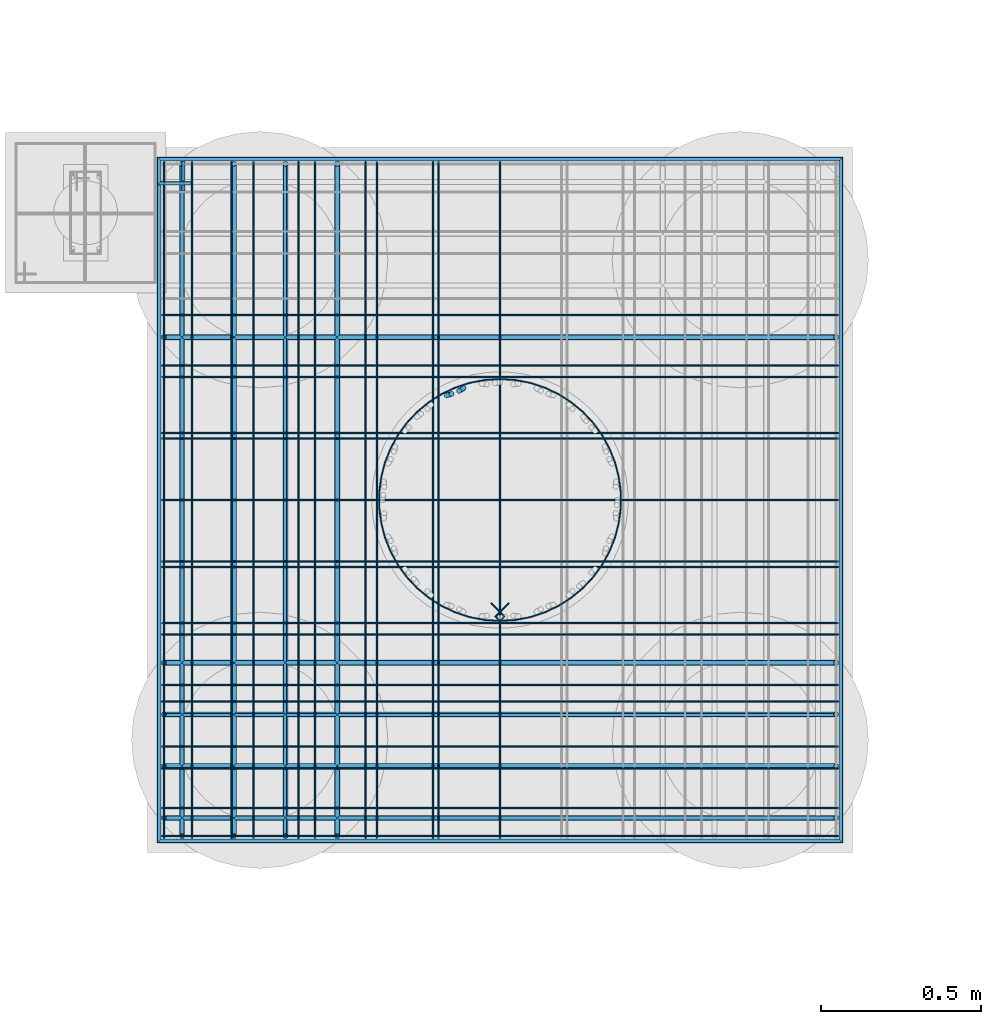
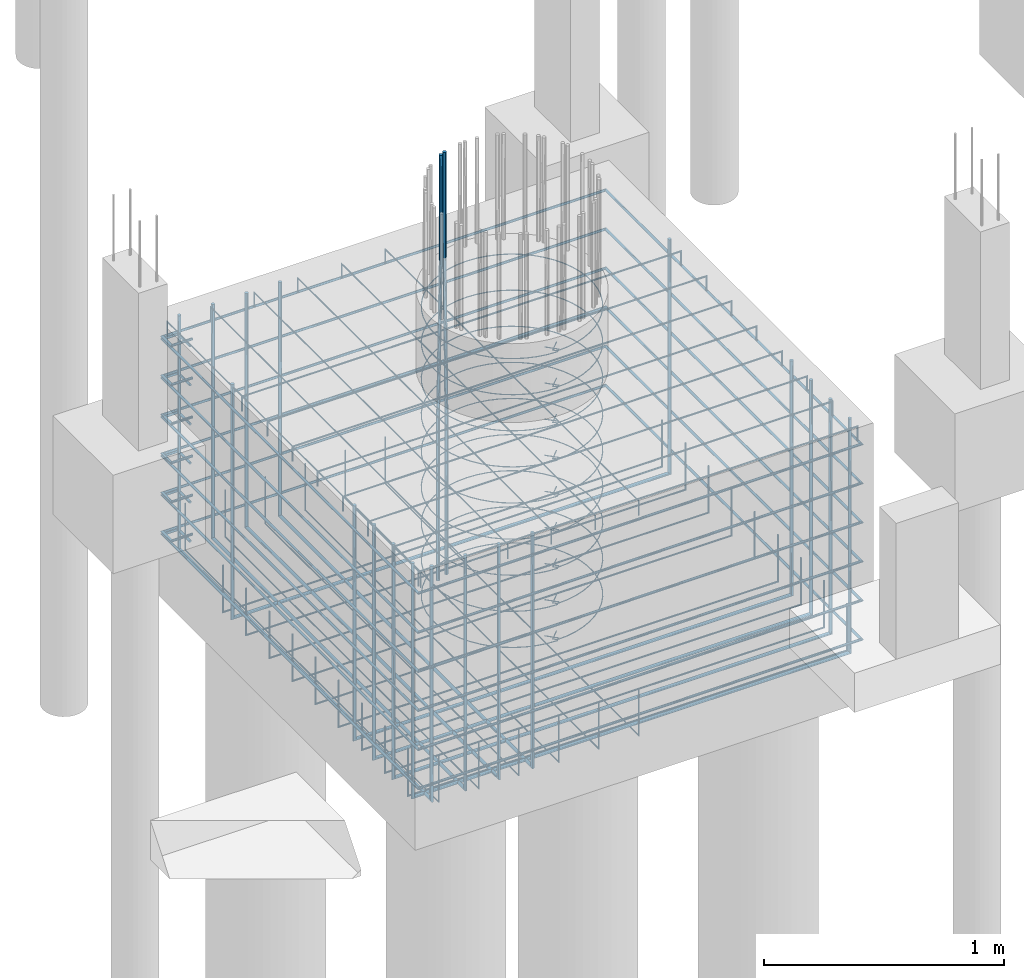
# One storey, part 12 of 119: 55 reinforcing bars.
"""IFC4 building model written with IfcOpenShell, lengths in centimetres."""

from ifc_helpers import new_model, entity, si_unit, derived_unit, frame, origin_with_axes, place, context, project, spatial, source, transform, mapped, element, save


model = new_model("IFC4")

# Units and contexts
model_context = context("Model", 3, precision=1e-05, world=origin_with_axes(), identifier="Body")
ifc_project = project(units=[si_unit("LENGTHUNIT", "METRE", prefix="CENTI"), si_unit("VOLUMEUNIT", "CUBIC_METRE"), si_unit("AREAUNIT", "SQUARE_METRE"), si_unit("POWERUNIT", "WATT"), si_unit("LUMINOUSFLUXUNIT", "LUMEN"), si_unit("ELECTRICCURRENTUNIT", "AMPERE"), si_unit("PRESSUREUNIT", "PASCAL", prefix="KILO"), si_unit("MASSUNIT", "GRAM", prefix="KILO"), si_unit("PLANEANGLEUNIT", "RADIAN"), derived_unit("VOLUMETRICFLOWRATEUNIT", [(si_unit("LENGTHUNIT", "METRE"), 3), (si_unit("TIMEUNIT", "SECOND"), -1)])], contexts=[model_context])

# Site, building, storey
site_placement = place(None, frame((-4000.0, 0.0, 0.0), z_axis=(0.0, 0.0, 1.0), x_axis=(1.0, 0.0, 0.0)))
site = spatial("IfcSite", under=ifc_project, at=site_placement, Name="PADRÃO")
building_placement = place(site_placement, frame((0.0, 0.0, -14.0)))
building = spatial("IfcBuilding", under=site, at=building_placement, Name="CRECHE PRÉ-ESCOLA TIPO 2")
storey_placement = place(building_placement, origin_with_axes())
storey = spatial("IfcBuildingStorey", under=building, at=storey_placement, Name="FUNDAÇÃO", CompositionType="ELEMENT", Elevation=-14.0)

# Reinforcing bars
shared_shape_1 = source(origin_with_axes(), model_context, "Body", "AdvancedSweptSolid", [
    entity("IfcSweptDiskSolid", entity("IfcCompositeCurve", [entity("IfcCompositeCurveSegment", "CONTINUOUS", True, entity("IfcPolyline", [entity("IfcCartesianPoint", [69.8431457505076, -40.5784271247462, 0.0]), entity("IfcCartesianPoint", [74.0857864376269, -36.3357864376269, 0.0])])), entity("IfcCompositeCurveSegment", "CONTINUOUS", True, entity("IfcPolyline", [entity("IfcCartesianPoint", [74.0857864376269, -36.3357864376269, 0.0]), entity("IfcCartesianPoint", [75.5, -37.75, 0.0])])), entity("IfcCompositeCurveSegment", "CONTINUOUS", True, entity("IfcPolyline", [entity("IfcCartesianPoint", [75.5, -37.75, 0.0]), entity("IfcCartesianPoint", [75.2023299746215, -42.4813295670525, 0.01])])), entity("IfcCompositeCurveSegment", "CONTINUOUS", True, entity("IfcPolyline", [entity("IfcCartesianPoint", [75.2023299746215, -42.4813295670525, 0.01]), entity("IfcCartesianPoint", [74.3140143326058, -47.1380432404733, 0.02])])), entity("IfcCompositeCurveSegment", "CONTINUOUS", True, entity("IfcPolyline", [entity("IfcCartesianPoint", [74.3140143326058, -47.1380432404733, 0.02]), entity("IfcCartesianPoint", [72.8490623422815, -51.6467018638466, 0.03])])), entity("IfcCompositeCurveSegment", "CONTINUOUS", True, entity("IfcPolyline", [entity("IfcCartesianPoint", [72.8490623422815, -51.6467018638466, 0.03]), entity("IfcCartesianPoint", [70.8305771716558, -55.9362011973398, 0.04])])), entity("IfcCompositeCurveSegment", "CONTINUOUS", True, entity("IfcPolyline", [entity("IfcCartesianPoint", [70.8305771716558, -55.9362011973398, 0.04]), entity("IfcCartesianPoint", [68.2903915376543, -59.9388932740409, 0.05])])), entity("IfcCompositeCurveSegment", "CONTINUOUS", True, entity("IfcPolyline", [entity("IfcCartesianPoint", [68.2903915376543, -59.9388932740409, 0.05]), entity("IfcCartesianPoint", [65.2685656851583, -63.591653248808, 0.06])])), entity("IfcCompositeCurveSegment", "CONTINUOUS", True, entity("IfcPolyline", [entity("IfcCartesianPoint", [65.2685656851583, -63.591653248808, 0.06]), entity("IfcCartesianPoint", [61.812755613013, -66.836874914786, 0.07])])), entity("IfcCompositeCurveSegment", "CONTINUOUS", True, entity("IfcPolyline", [entity("IfcCartesianPoint", [61.812755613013, -66.836874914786, 0.07]), entity("IfcCartesianPoint", [57.9774615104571, -69.6233791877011, 0.08])])), entity("IfcCompositeCurveSegment", "CONTINUOUS", True, entity("IfcPolyline", [entity("IfcCartesianPoint", [57.9774615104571, -69.6233791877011, 0.08]), entity("IfcCartesianPoint", [53.8231682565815, -71.9072212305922, 0.09])])), entity("IfcCompositeCurveSegment", "CONTINUOUS", True, entity("IfcPolyline", [entity("IfcCartesianPoint", [53.8231682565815, -71.9072212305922, 0.09]), entity("IfcCartesianPoint", [49.4153915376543, -73.652383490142, 0.1])])), entity("IfcCompositeCurveSegment", "CONTINUOUS", True, entity("IfcPolyline", [entity("IfcCartesianPoint", [49.4153915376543, -73.652383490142, 0.1]), entity("IfcCartesianPoint", [44.8236446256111, -74.831343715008, 0.11])])), entity("IfcCompositeCurveSegment", "CONTINUOUS", True, entity("IfcPolyline", [entity("IfcCartesianPoint", [44.8236446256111, -74.831343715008, 0.11]), entity("IfcCartesianPoint", [40.1203421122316, -75.4255089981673, 0.12])])), entity("IfcCompositeCurveSegment", "CONTINUOUS", True, entity("IfcPolyline", [entity("IfcCartesianPoint", [40.1203421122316, -75.4255089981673, 0.12]), entity("IfcCartesianPoint", [35.3796578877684, -75.4255089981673, 0.13])])), entity("IfcCompositeCurveSegment", "CONTINUOUS", True, entity("IfcPolyline", [entity("IfcCartesianPoint", [35.3796578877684, -75.4255089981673, 0.13]), entity("IfcCartesianPoint", [30.6763553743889, -74.831343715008, 0.14])])), entity("IfcCompositeCurveSegment", "CONTINUOUS", True, entity("IfcPolyline", [entity("IfcCartesianPoint", [30.6763553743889, -74.831343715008, 0.14]), entity("IfcCartesianPoint", [26.0846084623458, -73.6523834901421, 0.15])])), entity("IfcCompositeCurveSegment", "CONTINUOUS", True, entity("IfcPolyline", [entity("IfcCartesianPoint", [26.0846084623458, -73.6523834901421, 0.15]), entity("IfcCartesianPoint", [21.6768317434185, -71.9072212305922, 0.16])])), entity("IfcCompositeCurveSegment", "CONTINUOUS", True, entity("IfcPolyline", [entity("IfcCartesianPoint", [21.6768317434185, -71.9072212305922, 0.16]), entity("IfcCartesianPoint", [17.5225384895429, -69.6233791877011, 0.17])])), entity("IfcCompositeCurveSegment", "CONTINUOUS", True, entity("IfcPolyline", [entity("IfcCartesianPoint", [17.5225384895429, -69.6233791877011, 0.17]), entity("IfcCartesianPoint", [13.687244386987, -66.8368749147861, 0.18])])), entity("IfcCompositeCurveSegment", "CONTINUOUS", True, entity("IfcPolyline", [entity("IfcCartesianPoint", [13.687244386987, -66.8368749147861, 0.18]), entity("IfcCartesianPoint", [10.2314343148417, -63.591653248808, 0.19])])), entity("IfcCompositeCurveSegment", "CONTINUOUS", True, entity("IfcPolyline", [entity("IfcCartesianPoint", [10.2314343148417, -63.591653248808, 0.19]), entity("IfcCartesianPoint", [7.20960846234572, -59.9388932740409, 0.2])])), entity("IfcCompositeCurveSegment", "CONTINUOUS", True, entity("IfcPolyline", [entity("IfcCartesianPoint", [7.20960846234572, -59.9388932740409, 0.2]), entity("IfcCartesianPoint", [4.66942282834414, -55.9362011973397, 0.21])])), entity("IfcCompositeCurveSegment", "CONTINUOUS", True, entity("IfcPolyline", [entity("IfcCartesianPoint", [4.66942282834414, -55.9362011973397, 0.21]), entity("IfcCartesianPoint", [2.6509376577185, -51.6467018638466, 0.22])])), entity("IfcCompositeCurveSegment", "CONTINUOUS", True, entity("IfcPolyline", [entity("IfcCartesianPoint", [2.6509376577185, -51.6467018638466, 0.22]), entity("IfcCartesianPoint", [1.18598566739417, -47.1380432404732, 0.23])])), entity("IfcCompositeCurveSegment", "CONTINUOUS", True, entity("IfcPolyline", [entity("IfcCartesianPoint", [1.18598566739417, -47.1380432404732, 0.23]), entity("IfcCartesianPoint", [0.297670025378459, -42.4813295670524, 0.24])])), entity("IfcCompositeCurveSegment", "CONTINUOUS", True, entity("IfcPolyline", [entity("IfcCartesianPoint", [0.297670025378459, -42.4813295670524, 0.24]), entity("IfcCartesianPoint", [0.0, -37.75, 0.25])])), entity("IfcCompositeCurveSegment", "CONTINUOUS", True, entity("IfcPolyline", [entity("IfcCartesianPoint", [0.0, -37.75, 0.25]), entity("IfcCartesianPoint", [0.297670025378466, -33.0186704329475, 0.26])])), entity("IfcCompositeCurveSegment", "CONTINUOUS", True, entity("IfcPolyline", [entity("IfcCartesianPoint", [0.297670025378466, -33.0186704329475, 0.26]), entity("IfcCartesianPoint", [1.18598566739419, -28.3619567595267, 0.27])])), entity("IfcCompositeCurveSegment", "CONTINUOUS", True, entity("IfcPolyline", [entity("IfcCartesianPoint", [1.18598566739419, -28.3619567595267, 0.27]), entity("IfcCartesianPoint", [2.65093765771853, -23.8532981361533, 0.28])])), entity("IfcCompositeCurveSegment", "CONTINUOUS", True, entity("IfcPolyline", [entity("IfcCartesianPoint", [2.65093765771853, -23.8532981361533, 0.28]), entity("IfcCartesianPoint", [4.66942282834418, -19.5637988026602, 0.29])])), entity("IfcCompositeCurveSegment", "CONTINUOUS", True, entity("IfcPolyline", [entity("IfcCartesianPoint", [4.66942282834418, -19.5637988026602, 0.29]), entity("IfcCartesianPoint", [7.20960846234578, -15.5611067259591, 0.3])])), entity("IfcCompositeCurveSegment", "CONTINUOUS", True, entity("IfcPolyline", [entity("IfcCartesianPoint", [7.20960846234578, -15.5611067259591, 0.3]), entity("IfcCartesianPoint", [10.2314343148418, -11.9083467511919, 0.31])])), entity("IfcCompositeCurveSegment", "CONTINUOUS", True, entity("IfcPolyline", [entity("IfcCartesianPoint", [10.2314343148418, -11.9083467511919, 0.31]), entity("IfcCartesianPoint", [13.687244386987, -8.66312508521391, 0.32])])), entity("IfcCompositeCurveSegment", "CONTINUOUS", True, entity("IfcPolyline", [entity("IfcCartesianPoint", [13.687244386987, -8.66312508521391, 0.32]), entity("IfcCartesianPoint", [17.5225384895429, -5.87662081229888, 0.33])])), entity("IfcCompositeCurveSegment", "CONTINUOUS", True, entity("IfcPolyline", [entity("IfcCartesianPoint", [17.5225384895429, -5.87662081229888, 0.33]), entity("IfcCartesianPoint", [21.6768317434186, -3.59277876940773, 0.34])])), entity("IfcCompositeCurveSegment", "CONTINUOUS", True, entity("IfcPolyline", [entity("IfcCartesianPoint", [21.6768317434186, -3.59277876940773, 0.34]), entity("IfcCartesianPoint", [26.0846084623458, -1.84761650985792, 0.35])])), entity("IfcCompositeCurveSegment", "CONTINUOUS", True, entity("IfcPolyline", [entity("IfcCartesianPoint", [26.0846084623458, -1.84761650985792, 0.35]), entity("IfcCartesianPoint", [30.676355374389, -0.668656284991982, 0.36])])), entity("IfcCompositeCurveSegment", "CONTINUOUS", True, entity("IfcPolyline", [entity("IfcCartesianPoint", [30.676355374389, -0.668656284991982, 0.36]), entity("IfcCartesianPoint", [35.3796578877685, -0.07449100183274, 0.37])])), entity("IfcCompositeCurveSegment", "CONTINUOUS", True, entity("IfcPolyline", [entity("IfcCartesianPoint", [35.3796578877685, -0.07449100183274, 0.37]), entity("IfcCartesianPoint", [40.1203421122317, -0.074491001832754, 0.38])])), entity("IfcCompositeCurveSegment", "CONTINUOUS", True, entity("IfcPolyline", [entity("IfcCartesianPoint", [40.1203421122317, -0.074491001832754, 0.38]), entity("IfcCartesianPoint", [44.8236446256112, -0.668656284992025, 0.39])])), entity("IfcCompositeCurveSegment", "CONTINUOUS", True, entity("IfcPolyline", [entity("IfcCartesianPoint", [44.8236446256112, -0.668656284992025, 0.39]), entity("IfcCartesianPoint", [49.4153915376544, -1.84761650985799, 0.4])])), entity("IfcCompositeCurveSegment", "CONTINUOUS", True, entity("IfcPolyline", [entity("IfcCartesianPoint", [49.4153915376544, -1.84761650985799, 0.4]), entity("IfcCartesianPoint", [53.8231682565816, -3.59277876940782, 0.41])])), entity("IfcCompositeCurveSegment", "CONTINUOUS", True, entity("IfcPolyline", [entity("IfcCartesianPoint", [53.8231682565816, -3.59277876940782, 0.41]), entity("IfcCartesianPoint", [57.9774615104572, -5.87662081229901, 0.42])])), entity("IfcCompositeCurveSegment", "CONTINUOUS", True, entity("IfcPolyline", [entity("IfcCartesianPoint", [57.9774615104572, -5.87662081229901, 0.42]), entity("IfcCartesianPoint", [61.8127556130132, -8.66312508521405, 0.43])])), entity("IfcCompositeCurveSegment", "CONTINUOUS", True, entity("IfcPolyline", [entity("IfcCartesianPoint", [61.8127556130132, -8.66312508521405, 0.43]), entity("IfcCartesianPoint", [65.2685656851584, -11.9083467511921, 0.44])])), entity("IfcCompositeCurveSegment", "CONTINUOUS", True, entity("IfcPolyline", [entity("IfcCartesianPoint", [65.2685656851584, -11.9083467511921, 0.44]), entity("IfcCartesianPoint", [68.2903915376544, -15.5611067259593, 0.45])])), entity("IfcCompositeCurveSegment", "CONTINUOUS", True, entity("IfcPolyline", [entity("IfcCartesianPoint", [68.2903915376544, -15.5611067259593, 0.45]), entity("IfcCartesianPoint", [70.8305771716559, -19.5637988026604, 0.46])])), entity("IfcCompositeCurveSegment", "CONTINUOUS", True, entity("IfcPolyline", [entity("IfcCartesianPoint", [70.8305771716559, -19.5637988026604, 0.46]), entity("IfcCartesianPoint", [72.8490623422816, -23.8532981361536, 0.47])])), entity("IfcCompositeCurveSegment", "CONTINUOUS", True, entity("IfcPolyline", [entity("IfcCartesianPoint", [72.8490623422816, -23.8532981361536, 0.47]), entity("IfcCartesianPoint", [74.3140143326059, -28.3619567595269, 0.48])])), entity("IfcCompositeCurveSegment", "CONTINUOUS", True, entity("IfcPolyline", [entity("IfcCartesianPoint", [74.3140143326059, -28.3619567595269, 0.48]), entity("IfcCartesianPoint", [75.2023299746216, -33.0186704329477, 0.49])])), entity("IfcCompositeCurveSegment", "CONTINUOUS", True, entity("IfcPolyline", [entity("IfcCartesianPoint", [75.2023299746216, -33.0186704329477, 0.49]), entity("IfcCartesianPoint", [75.5, -37.75, 0.5])])), entity("IfcCompositeCurveSegment", "CONTINUOUS", True, entity("IfcPolyline", [entity("IfcCartesianPoint", [75.5, -37.75, 0.5]), entity("IfcCartesianPoint", [74.0857864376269, -39.1642135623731, 0.5])])), entity("IfcCompositeCurveSegment", "CONTINUOUS", True, entity("IfcPolyline", [entity("IfcCartesianPoint", [74.0857864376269, -39.1642135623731, 0.5]), entity("IfcCartesianPoint", [69.8431457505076, -34.9215728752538, 0.5])]))], False), 0.25),
])
for number, where, z_axis, x_axis, name in (
    (1, (2423.03, 267.14, -9.16666666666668), (0.0, 0.0, 1.0), (0.0, -1.0, 0.0), "P151 - Estribo"),
    (2, (2423.03, 267.14, -27.5), (0.0, 0.0, 1.0), (0.0, -1.0, 0.0), "P151 - Estribo"),
    (3, (2423.03, 267.14, -45.8333333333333), (0.0, 0.0, 1.0), (0.0, -1.0, 0.0), "P151 - Estribo"),
    (4, (2423.03, 267.14, -64.1666666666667), (0.0, 0.0, 1.0), (0.0, -1.0, 0.0), "P151 - Estribo"),
    (5, (2423.03, 267.14, -82.5), (0.0, 0.0, 1.0), (0.0, -1.0, 0.0), "P151 - Estribo"),
    (6, (2423.03, 267.14, -100.833333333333), (0.0, 0.0, 1.0), (0.0, -1.0, 0.0), "P151 - Estribo"),
    (7, (2423.03, 267.14, -119.166666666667), (0.0, 0.0, 1.0), (0.0, -1.0, 0.0), "P151 - Estribo"),
    (8, (2423.03, 267.14, -137.5), (0.0, 0.0, 1.0), (0.0, -1.0, 0.0), "P151 - Estribo"),
    (9, (2423.03, 267.14, -155.833333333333), (0.0, 0.0, 1.0), (0.0, -1.0, 0.0), "P151 - Estribo"),
):
    element("IfcReinforcingBar", number, at=place(storey_placement, frame(where, z_axis=z_axis, x_axis=x_axis)), inside=storey, Name=name, BarLength=0.0, CrossSectionArea=1.9634954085e-05, NominalDiameter=0.5, PredefinedType="MAIN", context=model_context, shape_type="MappedRepresentation", body=[
        mapped(shared_shape_1, transform((0.0, 0.0, 0.0), scale=1.0)),
    ])
shared_shape_2 = source(origin_with_axes(), model_context, "Body", "AdvancedSweptSolid", [
    entity("IfcSweptDiskSolid", entity("IfcCompositeCurve", [entity("IfcCompositeCurveSegment", "CONTINUOUS", True, entity("IfcPolyline", [entity("IfcCartesianPoint", [2286.405, 325.765, 0.0]), entity("IfcCartesianPoint", [2286.405, 335.765, 0.0])])), entity("IfcCompositeCurveSegment", "CONTINUOUS", True, entity("IfcPolyline", [entity("IfcCartesianPoint", [2286.405, 335.765, 0.0]), entity("IfcCartesianPoint", [2278.905, 335.765, 0.0])])), entity("IfcCompositeCurveSegment", "CONTINUOUS", True, entity("IfcPolyline", [entity("IfcCartesianPoint", [2278.905, 335.765, 0.0]), entity("IfcCartesianPoint", [2278.905, 123.015, 0.0])])), entity("IfcCompositeCurveSegment", "CONTINUOUS", True, entity("IfcPolyline", [entity("IfcCartesianPoint", [2278.905, 123.015, 0.0]), entity("IfcCartesianPoint", [2491.655, 123.015, 1.25])])), entity("IfcCompositeCurveSegment", "CONTINUOUS", True, entity("IfcPolyline", [entity("IfcCartesianPoint", [2491.655, 123.015, 1.25]), entity("IfcCartesianPoint", [2491.655, 335.765, 1.25])])), entity("IfcCompositeCurveSegment", "CONTINUOUS", True, entity("IfcPolyline", [entity("IfcCartesianPoint", [2491.655, 335.765, 1.25]), entity("IfcCartesianPoint", [2278.905, 335.765, 1.25])])), entity("IfcCompositeCurveSegment", "CONTINUOUS", True, entity("IfcPolyline", [entity("IfcCartesianPoint", [2278.905, 335.765, 1.25]), entity("IfcCartesianPoint", [2278.905, 328.265, 1.25])])), entity("IfcCompositeCurveSegment", "CONTINUOUS", True, entity("IfcPolyline", [entity("IfcCartesianPoint", [2278.905, 328.265, 1.25]), entity("IfcCartesianPoint", [2288.905, 328.265, 1.25])]))], False), 0.625),
])
for number, where, z_axis, x_axis, name in (
    (10, (0.0, 0.0, -52.9166666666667), (0.0, 0.0, 1.0), (1.0, 0.0, 0.0), "P151 - Blocos (estribos)"),
    (11, (0.0, 0.0, -132.25), (0.0, 0.0, 1.0), (1.0, 0.0, 0.0), "P151 - Blocos (estribos)"),
    (12, (0.0, 0.0, -112.416666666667), (0.0, 0.0, 1.0), (1.0, 0.0, 0.0), "P151 - Blocos (estribos)"),
    (13, (0.0, 0.0, -92.5833333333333), (0.0, 0.0, 1.0), (1.0, 0.0, 0.0), "P151 - Blocos (estribos)"),
    (14, (0.0, 0.0, -152.083333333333), (0.0, 0.0, 1.0), (1.0, 0.0, 0.0), "P151 - Blocos (estribos)"),
    (15, (0.0, 0.0, -72.75), (0.0, 0.0, 1.0), (1.0, 0.0, 0.0), "P151 - Blocos (estribos)"),
):
    element("IfcReinforcingBar", number, at=place(storey_placement, frame(where, z_axis=z_axis, x_axis=x_axis)), inside=storey, Name=name, BarLength=0.0, CrossSectionArea=0.000122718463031, NominalDiameter=1.25, PredefinedType="MAIN", context=model_context, shape_type="MappedRepresentation", body=[
        mapped(shared_shape_2, transform((0.0, 0.0, 0.0), scale=1.0)),
    ])
for number, where, z_axis, x_axis, name in (
    (16, (2385.28, 229.39, -139.213841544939), (0.0, 0.0, 1.0), (1.0, 0.0, 0.0), "P151 - Blocos (distribuição)"),
    (17, (2366.05272727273, 229.39, -139.213841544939), (0.0, 0.0, 1.0), (1.0, 0.0, 0.0), "P151 - Blocos (distribuição)"),
    (18, (2346.82545454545, 229.39, -139.213841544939), (0.0, 0.0, 1.0), (1.0, 0.0, 0.0), "P151 - Blocos (distribuição)"),
    (19, (2327.59818181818, 229.39, -139.213841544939), (0.0, 0.0, 1.0), (1.0, 0.0, 0.0), "P151 - Blocos (distribuição)"),
    (20, (2308.37090909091, 229.39, -139.213841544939), (0.0, 0.0, 1.0), (1.0, 0.0, 0.0), "P151 - Blocos (distribuição)"),
    (21, (2289.14363636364, 229.39, -139.213841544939), (0.0, 0.0, 1.0), (1.0, 0.0, 0.0), "P151 - Blocos (distribuição)"),
):
    element("IfcReinforcingBar", number, at=place(storey_placement, frame(where, z_axis=z_axis, x_axis=x_axis)), inside=storey, Name=name, BarLength=0.0, CrossSectionArea=3.1172453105e-05, NominalDiameter=0.63, PredefinedType="MAIN", context=model_context, shape_type="AdvancedSweptSolid", body=[
        entity("IfcSweptDiskSolid", entity("IfcCompositeCurve", [entity("IfcCompositeCurveSegment", "CONTINUOUS", True, entity("IfcPolyline", [entity("IfcCartesianPoint", [0.0, 105.435, 0.0]), entity("IfcCartesianPoint", [0.0, 105.435, -23.7311584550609])])), entity("IfcCompositeCurveSegment", "CONTINUOUS", True, entity("IfcPolyline", [entity("IfcCartesianPoint", [0.0, 105.435, -23.7311584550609]), entity("IfcCartesianPoint", [0.0, -105.435, -23.7311584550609])])), entity("IfcCompositeCurveSegment", "CONTINUOUS", True, entity("IfcPolyline", [entity("IfcCartesianPoint", [0.0, -105.435, -23.7311584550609]), entity("IfcCartesianPoint", [0.0, -105.435, 0.0])]))], False), 0.315),
    ])
for number, where, z_axis, x_axis, name in (
    (22, (2385.28, 133.253636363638, -138.583841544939), (0.0, 0.0, 1.0), (1.0, 0.0, 0.0), "P151 - Blocos (distribuição)"),
    (23, (2385.28, 152.480909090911, -138.583841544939), (0.0, 0.0, 1.0), (1.0, 0.0, 0.0), "P151 - Blocos (distribuição)"),
    (24, (2385.28, 171.708181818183, -138.583841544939), (0.0, 0.0, 1.0), (1.0, 0.0, 0.0), "P151 - Blocos (distribuição)"),
    (25, (2385.28, 190.935454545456, -138.583841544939), (0.0, 0.0, 1.0), (1.0, 0.0, 0.0), "P151 - Blocos (distribuição)"),
    (26, (2385.28, 210.162727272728, -138.583841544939), (0.0, 0.0, 1.0), (1.0, 0.0, 0.0), "P151 - Blocos (distribuição)"),
    (27, (2385.28, 229.39, -138.583841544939), (0.0, 0.0, 1.0), (1.0, 0.0, 0.0), "P151 - Blocos (distribuição)"),
    (28, (2385.28, 248.617272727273, -138.583841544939), (0.0, 0.0, 1.0), (1.0, 0.0, 0.0), "P151 - Blocos (distribuição)"),
    (29, (2385.28, 267.844545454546, -138.583841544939), (0.0, 0.0, 1.0), (1.0, 0.0, 0.0), "P151 - Blocos (distribuição)"),
    (30, (2385.28, 287.071818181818, -138.583841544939), (0.0, 0.0, 1.0), (1.0, 0.0, 0.0), "P151 - Blocos (distribuição)"),
):
    element("IfcReinforcingBar", number, at=place(storey_placement, frame(where, z_axis=z_axis, x_axis=x_axis)), inside=storey, Name=name, BarLength=0.0, CrossSectionArea=3.1172453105e-05, NominalDiameter=0.63, PredefinedType="MAIN", context=model_context, shape_type="AdvancedSweptSolid", body=[
        entity("IfcSweptDiskSolid", entity("IfcCompositeCurve", [entity("IfcCompositeCurveSegment", "CONTINUOUS", True, entity("IfcPolyline", [entity("IfcCartesianPoint", [105.435, 0.0, 0.0]), entity("IfcCartesianPoint", [105.435, 0.0, -23.7311584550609])])), entity("IfcCompositeCurveSegment", "CONTINUOUS", True, entity("IfcPolyline", [entity("IfcCartesianPoint", [105.435, 0.0, -23.7311584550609]), entity("IfcCartesianPoint", [-105.435, 0.0, -23.7311584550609])])), entity("IfcCompositeCurveSegment", "CONTINUOUS", True, entity("IfcPolyline", [entity("IfcCartesianPoint", [-105.435, 0.0, -23.7311584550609]), entity("IfcCartesianPoint", [-105.435, 0.0, 0.0])]))], False), 0.315),
    ])
reinforcing_bar_1_placement = place(storey_placement, frame((2385.28, 280.19, -42.2), z_axis=(0.0, 0.0, 1.0), x_axis=(1.0, 0.0, 0.0)))
element("IfcReinforcingBar", 31, at=reinforcing_bar_1_placement, inside=storey, Name="P151 - Blocos (principal)", BarLength=0.0, CrossSectionArea=0.00020106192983, NominalDiameter=1.6, PredefinedType="MAIN", context=model_context, shape_type="AdvancedSweptSolid", body=[
    entity("IfcSweptDiskSolid", entity("IfcCompositeCurve", [entity("IfcCompositeCurveSegment", "CONTINUOUS", True, entity("IfcPolyline", [entity("IfcCartesianPoint", [-104.95, 0.0, 0.0]), entity("IfcCartesianPoint", [-104.95, 0.0, -119.0])])), entity("IfcCompositeCurveSegment", "CONTINUOUS", True, entity("IfcPolyline", [entity("IfcCartesianPoint", [-104.95, 0.0, -119.0]), entity("IfcCartesianPoint", [104.95, 0.0, -119.0])])), entity("IfcCompositeCurveSegment", "CONTINUOUS", True, entity("IfcPolyline", [entity("IfcCartesianPoint", [104.95, 0.0, -119.0]), entity("IfcCartesianPoint", [104.95, 0.0, 0.0])]))], False), 0.8),
])
for number, where, z_axis, x_axis, name in (
    (32, (2286.08, 229.39, -42.2), (0.0, 0.0, 1.0), (1.0, 0.0, 0.0), "P151 - Blocos (principal)"),
    (33, (2302.21333333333, 229.39, -42.2), (0.0, 0.0, 1.0), (1.0, 0.0, 0.0), "P151 - Blocos (principal)"),
    (34, (2318.34666666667, 229.39, -42.2), (0.0, 0.0, 1.0), (1.0, 0.0, 0.0), "P151 - Blocos (principal)"),
    (35, (2334.48, 229.39, -42.2), (0.0, 0.0, 1.0), (1.0, 0.0, 0.0), "P151 - Blocos (principal)"),
):
    element("IfcReinforcingBar", number, at=place(storey_placement, frame(where, z_axis=z_axis, x_axis=x_axis)), inside=storey, Name=name, BarLength=0.0, CrossSectionArea=0.00020106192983, NominalDiameter=1.6, PredefinedType="MAIN", context=model_context, shape_type="AdvancedSweptSolid", body=[
        entity("IfcSweptDiskSolid", entity("IfcCompositeCurve", [entity("IfcCompositeCurveSegment", "CONTINUOUS", True, entity("IfcPolyline", [entity("IfcCartesianPoint", [0.0, 104.95, 0.0]), entity("IfcCartesianPoint", [0.0, 104.95, -119.0])])), entity("IfcCompositeCurveSegment", "CONTINUOUS", True, entity("IfcPolyline", [entity("IfcCartesianPoint", [0.0, 104.95, -119.0]), entity("IfcCartesianPoint", [0.0, -104.95, -119.0])])), entity("IfcCompositeCurveSegment", "CONTINUOUS", True, entity("IfcPolyline", [entity("IfcCartesianPoint", [0.0, -104.95, -119.0]), entity("IfcCartesianPoint", [0.0, -104.95, 0.0])]))], False), 0.8),
    ])
for number, where, z_axis, x_axis, name in (
    (36, (2385.28, 178.59, -42.2), (0.0, 0.0, 1.0), (1.0, 0.0, 0.0), "P151 - Blocos (principal)"),
    (37, (2385.28, 162.456666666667, -42.2), (0.0, 0.0, 1.0), (1.0, 0.0, 0.0), "P151 - Blocos (principal)"),
    (38, (2385.28, 146.323333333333, -42.2), (0.0, 0.0, 1.0), (1.0, 0.0, 0.0), "P151 - Blocos (principal)"),
    (39, (2385.28, 130.19, -42.2), (0.0, 0.0, 1.0), (1.0, 0.0, 0.0), "P151 - Blocos (principal)"),
):
    element("IfcReinforcingBar", number, at=place(storey_placement, frame(where, z_axis=z_axis, x_axis=x_axis)), inside=storey, Name=name, BarLength=0.0, CrossSectionArea=0.00020106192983, NominalDiameter=1.6, PredefinedType="MAIN", context=model_context, shape_type="AdvancedSweptSolid", body=[
        entity("IfcSweptDiskSolid", entity("IfcCompositeCurve", [entity("IfcCompositeCurveSegment", "CONTINUOUS", True, entity("IfcPolyline", [entity("IfcCartesianPoint", [-104.95, 0.0, 0.0]), entity("IfcCartesianPoint", [-104.95, 0.0, -119.0])])), entity("IfcCompositeCurveSegment", "CONTINUOUS", True, entity("IfcPolyline", [entity("IfcCartesianPoint", [-104.95, 0.0, -119.0]), entity("IfcCartesianPoint", [104.95, 0.0, -119.0])])), entity("IfcCompositeCurveSegment", "CONTINUOUS", True, entity("IfcPolyline", [entity("IfcCartesianPoint", [104.95, 0.0, -119.0]), entity("IfcCartesianPoint", [104.95, 0.0, 0.0])]))], False), 0.8),
    ])
for number, where, z_axis, x_axis, name in (
    (40, (2343.35799911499, 229.39, -43.627046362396), (0.0, 0.0, 1.0), (1.0, 0.0, 0.0), "P151 - Blocos (superior)"),
    (41, (2364.3189995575, 229.39, -43.627046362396), (0.0, 0.0, 1.0), (1.0, 0.0, 0.0), "P151 - Blocos (superior)"),
    (42, (2385.28, 229.39, -43.627046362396), (0.0, 0.0, 1.0), (1.0, 0.0, 0.0), "P151 - Blocos (superior)"),
):
    element("IfcReinforcingBar", number, at=place(storey_placement, frame(where, z_axis=z_axis, x_axis=x_axis)), inside=storey, Name=name, BarLength=0.0, CrossSectionArea=3.1172453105e-05, NominalDiameter=0.63, PredefinedType="MAIN", context=model_context, shape_type="AdvancedSweptSolid", body=[
        entity("IfcSweptDiskSolid", entity("IfcCompositeCurve", [entity("IfcCompositeCurveSegment", "CONTINUOUS", True, entity("IfcPolyline", [entity("IfcCartesianPoint", [0.0, 105.434997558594, -7.56295333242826]), entity("IfcCartesianPoint", [0.0, 105.434997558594, -0.317953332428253])])), entity("IfcCompositeCurveSegment", "CONTINUOUS", True, entity("IfcPolyline", [entity("IfcCartesianPoint", [0.0, 105.434997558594, -0.317953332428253]), entity("IfcCartesianPoint", [0.0, -105.434997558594, -0.317953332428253])])), entity("IfcCompositeCurveSegment", "CONTINUOUS", True, entity("IfcPolyline", [entity("IfcCartesianPoint", [0.0, -105.434997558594, -0.317953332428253]), entity("IfcCartesianPoint", [0.0, -105.434997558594, -7.56295333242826])]))], False), 0.315),
    ])
for number, where, z_axis, x_axis, name in (
    (43, (2385.28, 271.31200088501, -42.9970452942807), (0.0, 0.0, 1.0), (1.0, 0.0, 0.0), "P151 - Blocos (superior)"),
    (44, (2385.28, 250.351000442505, -42.9970452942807), (0.0, 0.0, 1.0), (1.0, 0.0, 0.0), "P151 - Blocos (superior)"),
    (45, (2385.28, 229.39, -42.9970452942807), (0.0, 0.0, 1.0), (1.0, 0.0, 0.0), "P151 - Blocos (superior)"),
    (46, (2385.28, 208.428999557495, -42.9970452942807), (0.0, 0.0, 1.0), (1.0, 0.0, 0.0), "P151 - Blocos (superior)"),
    (47, (2385.28, 187.46799911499, -42.9970452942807), (0.0, 0.0, 1.0), (1.0, 0.0, 0.0), "P151 - Blocos (superior)"),
    (48, (2385.28, 166.507000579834, -42.9970452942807), (0.0, 0.0, 1.0), (1.0, 0.0, 0.0), "P151 - Blocos (superior)"),
    (49, (2385.28, 124.584999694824, -42.9970452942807), (0.0, 0.0, 1.0), (1.0, 0.0, 0.0), "P151 - Blocos (superior)"),
):
    element("IfcReinforcingBar", number, at=place(storey_placement, frame(where, z_axis=z_axis, x_axis=x_axis)), inside=storey, Name=name, BarLength=0.0, CrossSectionArea=3.1172453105e-05, NominalDiameter=0.63, PredefinedType="MAIN", context=model_context, shape_type="AdvancedSweptSolid", body=[
        entity("IfcSweptDiskSolid", entity("IfcCompositeCurve", [entity("IfcCompositeCurveSegment", "CONTINUOUS", True, entity("IfcPolyline", [entity("IfcCartesianPoint", [105.434997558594, 0.0, -7.56295333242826]), entity("IfcCartesianPoint", [105.434997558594, 0.0, -0.31795333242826])])), entity("IfcCompositeCurveSegment", "CONTINUOUS", True, entity("IfcPolyline", [entity("IfcCartesianPoint", [105.434997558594, 0.0, -0.31795333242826]), entity("IfcCartesianPoint", [-105.434997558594, 0.0, -0.31795333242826])])), entity("IfcCompositeCurveSegment", "CONTINUOUS", True, entity("IfcPolyline", [entity("IfcCartesianPoint", [-105.434997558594, 0.0, -0.31795333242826]), entity("IfcCartesianPoint", [-105.434997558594, 0.0, -7.56295333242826])]))], False), 0.315),
    ])
for number, where, z_axis, x_axis, name in (
    (50, (2322.39700057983, 229.39, -43.627046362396), (0.0, 0.0, 1.0), (1.0, 0.0, 0.0), "P151 - Blocos (superior)"),
    (51, (2301.43599822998, 229.39, -43.627046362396), (0.0, 0.0, 1.0), (1.0, 0.0, 0.0), "P151 - Blocos (superior)"),
    (52, (2280.47499969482, 229.39, -43.627046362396), (0.0, 0.0, 1.0), (1.0, 0.0, 0.0), "P151 - Blocos (superior)"),
):
    element("IfcReinforcingBar", number, at=place(storey_placement, frame(where, z_axis=z_axis, x_axis=x_axis)), inside=storey, Name=name, BarLength=0.0, CrossSectionArea=3.1172453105e-05, NominalDiameter=0.63, PredefinedType="MAIN", context=model_context, shape_type="AdvancedSweptSolid", body=[
        entity("IfcSweptDiskSolid", entity("IfcCompositeCurve", [entity("IfcCompositeCurveSegment", "CONTINUOUS", True, entity("IfcPolyline", [entity("IfcCartesianPoint", [0.0, 105.434997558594, -7.56295333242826]), entity("IfcCartesianPoint", [0.0, 105.434997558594, -0.317953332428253])])), entity("IfcCompositeCurveSegment", "CONTINUOUS", True, entity("IfcPolyline", [entity("IfcCartesianPoint", [0.0, 105.434997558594, -0.317953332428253]), entity("IfcCartesianPoint", [0.0, -105.434997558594, -0.317953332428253])])), entity("IfcCompositeCurveSegment", "CONTINUOUS", True, entity("IfcPolyline", [entity("IfcCartesianPoint", [0.0, -105.434997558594, -0.317953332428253]), entity("IfcCartesianPoint", [0.0, -105.434997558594, -7.56295333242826])]))], False), 0.315),
    ])
reinforcing_bar_2_placement = place(storey_placement, frame((2385.28, 145.54599822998, -42.9970452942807), z_axis=(0.0, 0.0, 1.0), x_axis=(1.0, 0.0, 0.0)))
element("IfcReinforcingBar", 53, at=reinforcing_bar_2_placement, inside=storey, Name="P151 - Blocos (superior)", BarLength=0.0, CrossSectionArea=3.1172453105e-05, NominalDiameter=0.63, PredefinedType="MAIN", context=model_context, shape_type="AdvancedSweptSolid", body=[
    entity("IfcSweptDiskSolid", entity("IfcCompositeCurve", [entity("IfcCompositeCurveSegment", "CONTINUOUS", True, entity("IfcPolyline", [entity("IfcCartesianPoint", [105.434997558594, 0.0, -7.56295333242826]), entity("IfcCartesianPoint", [105.434997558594, 0.0, -0.31795333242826])])), entity("IfcCompositeCurveSegment", "CONTINUOUS", True, entity("IfcPolyline", [entity("IfcCartesianPoint", [105.434997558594, 0.0, -0.31795333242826]), entity("IfcCartesianPoint", [-105.434997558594, 0.0, -0.31795333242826])])), entity("IfcCompositeCurveSegment", "CONTINUOUS", True, entity("IfcPolyline", [entity("IfcCartesianPoint", [-105.434997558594, 0.0, -0.31795333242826]), entity("IfcCartesianPoint", [-105.434997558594, 0.0, -7.56295333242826])]))], False), 0.315),
])
reinforcing_bar_3_placement = place(storey_placement, frame((2369.40148325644, 262.290268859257, 53.37168018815), z_axis=(0.0, 0.0, 1.0), x_axis=(1.0, 0.0, 0.0)))
element("IfcReinforcingBar", 54, at=reinforcing_bar_3_placement, inside=storey, Name="P151 - Longitudinal", BarLength=0.0, CrossSectionArea=0.00020106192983, NominalDiameter=1.6, PredefinedType="MAIN", context=model_context, shape_type="AdvancedSweptSolid", body=[
    entity("IfcSweptDiskSolid", entity("IfcCompositeCurve", [entity("IfcCompositeCurveSegment", "CONTINUOUS", True, entity("IfcPolyline", [entity("IfcCartesianPoint", [-0.782934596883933, -0.200329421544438, -215.37168018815]), entity("IfcCartesianPoint", [-0.782934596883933, -0.200329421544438, -133.37168018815])])), entity("IfcCompositeCurveSegment", "CONTINUOUS", True, entity("IfcPolyline", [entity("IfcCartesianPoint", [-0.782934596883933, -0.200329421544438, -133.37168018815]), entity("IfcCartesianPoint", [0.782934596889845, 0.200329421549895, -53.37168018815])])), entity("IfcCompositeCurveSegment", "CONTINUOUS", True, entity("IfcPolyline", [entity("IfcCartesianPoint", [0.782934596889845, 0.200329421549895, -53.37168018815]), entity("IfcCartesianPoint", [0.782934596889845, 0.200329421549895, 0.0])]))], False), 0.8),
])
reinforcing_bar_4_placement = place(storey_placement, frame((2373.24380365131, 263.881810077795, 53.37168018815), z_axis=(0.0, 0.0, 1.0), x_axis=(1.0, 0.0, 0.0)))
element("IfcReinforcingBar", 55, at=reinforcing_bar_4_placement, inside=storey, Name="P151 - Longitudinal", BarLength=0.0, CrossSectionArea=0.00020106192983, NominalDiameter=1.6, PredefinedType="MAIN", context=model_context, shape_type="AdvancedSweptSolid", body=[
    entity("IfcSweptDiskSolid", entity("IfcCompositeCurve", [entity("IfcCompositeCurveSegment", "CONTINUOUS", True, entity("IfcPolyline", [entity("IfcCartesianPoint", [0.695272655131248, 0.411964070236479, -215.37168018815]), entity("IfcCartesianPoint", [0.695272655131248, 0.411964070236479, -133.37168018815])])), entity("IfcCompositeCurveSegment", "CONTINUOUS", True, entity("IfcPolyline", [entity("IfcCartesianPoint", [0.695272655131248, 0.411964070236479, -133.37168018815]), entity("IfcCartesianPoint", [-0.695272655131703, -0.411964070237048, -53.37168018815])])), entity("IfcCompositeCurveSegment", "CONTINUOUS", True, entity("IfcPolyline", [entity("IfcCartesianPoint", [-0.695272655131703, -0.411964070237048, -53.37168018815]), entity("IfcCartesianPoint", [-0.695272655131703, -0.411964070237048, 0.0])]))], False), 0.8),
])

save(model, "model.ifc")
